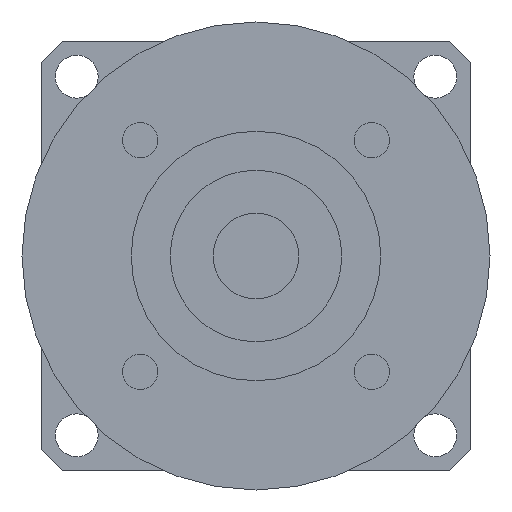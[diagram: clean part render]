
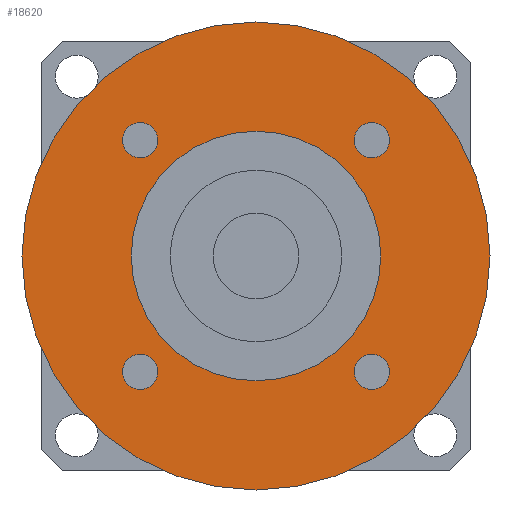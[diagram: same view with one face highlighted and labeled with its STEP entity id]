
A CAD part, left-side view. The second image highlights one B-rep face of the part: STEP entity #18620.
In plain terms, the highlighted planar face has unit normal (-1, 0, 0) as drawn and (0, 0, -1) by its records, which use the part's own axes.
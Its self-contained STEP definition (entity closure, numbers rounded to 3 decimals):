
#11090=CARTESIAN_POINT('',(-12.599,-14.849,-58.));
#11100=VERTEX_POINT('',#11090);
#11280=CARTESIAN_POINT('',(-17.099,-14.849,-58.));
#11290=VERTEX_POINT('',#11280);
#11320=CARTESIAN_POINT('',(-14.849,-14.849,-58.));
#11330=DIRECTION('',(0.,0.,-1.));
#11340=DIRECTION('',(0.,-1.,0.));
#11350=AXIS2_PLACEMENT_3D('',#11320,#11330,#11340);
#11360=CIRCLE('',#11350,2.25);
#11370=CARTESIAN_POINT('',(-14.849,-17.099,-58.));
#11380=VERTEX_POINT('',#11370);
#11390=EDGE_CURVE('',#11380,#11290,#11360,.T.);
#11410=EDGE_CURVE('',#11100,#11380,#11360,.T.);
#12700=CARTESIAN_POINT('',(0.,0.,
-58.));
#12710=DIRECTION('',(0.,0.,1.));
#12720=DIRECTION('',(0.,-1.,0.));
#12730=AXIS2_PLACEMENT_3D('',#12700,#12710,#12720);
#12740=CIRCLE('',#12730,16.);
#12750=CARTESIAN_POINT('',(0.,-16.,-58.));
#12760=VERTEX_POINT('',#12750);
#12770=CARTESIAN_POINT('',(16.,0.,-58.));
#12780=VERTEX_POINT('',#12770);
#12790=EDGE_CURVE('',#12760,#12780,#12740,.T.);
#13020=CARTESIAN_POINT('',(-16.,0.,-58.));
#13030=VERTEX_POINT('',#13020);
#13060=EDGE_CURVE('',#13030,#12760,#12740,.T.);
#17550=CARTESIAN_POINT('',(30.,0.,-58.));
#17560=VERTEX_POINT('',#17550);
#17590=CARTESIAN_POINT('',(0.,0.,
-58.));
#17600=DIRECTION('',(0.,0.,1.));
#17610=DIRECTION('',(0.,-1.,0.));
#17620=AXIS2_PLACEMENT_3D('',#17590,#17600,#17610);
#17630=CIRCLE('',#17620,30.);
#17640=CARTESIAN_POINT('',(0.,-30.,-58.));
#17650=VERTEX_POINT('',#17640);
#17660=EDGE_CURVE('',#17650,#17560,#17630,.T.);
#17680=CARTESIAN_POINT('',(-30.,0.,-58.));
#17690=VERTEX_POINT('',#17680);
#17700=EDGE_CURVE('',#17690,#17650,#17630,.T.);
#17820=CARTESIAN_POINT('',(0.,0.,
-58.));
#17830=DIRECTION('',(0.,0.,1.));
#17840=DIRECTION('',(-1.,0.,0.));
#17850=AXIS2_PLACEMENT_3D('',#17820,#17830,#17840);
#17860=PLANE('',#17850);
#17870=CARTESIAN_POINT('',(14.849,-14.849,-58.));
#17880=DIRECTION('',(0.,0.,-1.));
#17890=DIRECTION('',(1.,0.,0.));
#17900=AXIS2_PLACEMENT_3D('',#17870,#17880,#17890);
#17910=CIRCLE('',#17900,2.25);
#17920=CARTESIAN_POINT('',(17.099,-14.849,-58.));
#17930=VERTEX_POINT('',#17920);
#17940=CARTESIAN_POINT('',(14.849,-17.099,-58.));
#17950=VERTEX_POINT('',#17940);
#17960=EDGE_CURVE('',#17930,#17950,#17910,.T.);
#17970=ORIENTED_EDGE('',*,*,#17960,.F.);
#17980=CARTESIAN_POINT('',(14.849,-12.599,-58.));
#17990=VERTEX_POINT('',#17980);
#18000=EDGE_CURVE('',#17950,#17990,#17910,.T.);
#18010=ORIENTED_EDGE('',*,*,#18000,.F.);
#18020=EDGE_CURVE('',#17990,#17930,#17910,.T.);
#18030=ORIENTED_EDGE('',*,*,#18020,.F.);
#18040=EDGE_LOOP('',(#18030,#18010,#17970));
#18050=FACE_BOUND('',#18040,.T.);
#18060=CARTESIAN_POINT('',(14.849,14.849,-58.));
#18070=DIRECTION('',(0.,0.,-1.));
#18080=DIRECTION('',(0.,1.,0.));
#18090=AXIS2_PLACEMENT_3D('',#18060,#18070,#18080);
#18100=CIRCLE('',#18090,2.25);
#18110=CARTESIAN_POINT('',(14.849,17.099,-58.));
#18120=VERTEX_POINT('',#18110);
#18130=CARTESIAN_POINT('',(17.099,14.849,-58.));
#18140=VERTEX_POINT('',#18130);
#18150=EDGE_CURVE('',#18120,#18140,#18100,.T.);
#18160=ORIENTED_EDGE('',*,*,#18150,.F.);
#18170=CARTESIAN_POINT('',(12.599,14.849,-58.));
#18180=VERTEX_POINT('',#18170);
#18190=EDGE_CURVE('',#18140,#18180,#18100,.T.);
#18200=ORIENTED_EDGE('',*,*,#18190,.F.);
#18210=EDGE_CURVE('',#18180,#18120,#18100,.T.);
#18220=ORIENTED_EDGE('',*,*,#18210,.F.);
#18230=EDGE_LOOP('',(#18220,#18200,#18160));
#18240=FACE_BOUND('',#18230,.T.);
#18250=CARTESIAN_POINT('',(-14.849,14.849,-58.));
#18260=DIRECTION('',(0.,0.,-1.));
#18270=DIRECTION('',(-1.,0.,0.));
#18280=AXIS2_PLACEMENT_3D('',#18250,#18260,#18270);
#18290=CIRCLE('',#18280,2.25);
#18300=CARTESIAN_POINT('',(-17.099,14.849,-58.));
#18310=VERTEX_POINT('',#18300);
#18320=CARTESIAN_POINT('',(-14.849,17.099,-58.));
#18330=VERTEX_POINT('',#18320);
#18340=EDGE_CURVE('',#18310,#18330,#18290,.T.);
#18350=ORIENTED_EDGE('',*,*,#18340,.F.);
#18360=CARTESIAN_POINT('',(-14.849,12.599,-58.));
#18370=VERTEX_POINT('',#18360);
#18380=EDGE_CURVE('',#18330,#18370,#18290,.T.);
#18390=ORIENTED_EDGE('',*,*,#18380,.F.);
#18400=EDGE_CURVE('',#18370,#18310,#18290,.T.);
#18410=ORIENTED_EDGE('',*,*,#18400,.F.);
#18420=EDGE_LOOP('',(#18410,#18390,#18350));
#18430=FACE_BOUND('',#18420,.T.);
#18440=ORIENTED_EDGE('',*,*,#11390,.F.);
#18450=EDGE_CURVE('',#11290,#11100,#11360,.T.);
#18460=ORIENTED_EDGE('',*,*,#18450,.F.);
#18470=ORIENTED_EDGE('',*,*,#11410,.F.);
#18480=EDGE_LOOP('',(#18470,#18460,#18440));
#18490=FACE_BOUND('',#18480,.T.);
#18500=ORIENTED_EDGE('',*,*,#17660,.F.);
#18510=EDGE_CURVE('',#17560,#17690,#17630,.T.);
#18520=ORIENTED_EDGE('',*,*,#18510,.F.);
#18530=ORIENTED_EDGE('',*,*,#17700,.F.);
#18540=EDGE_LOOP('',(#18530,#18520,#18500));
#18550=FACE_OUTER_BOUND('',#18540,.T.);
#18560=EDGE_CURVE('',#12780,#13030,#12740,.T.);
#18570=ORIENTED_EDGE('',*,*,#18560,.T.);
#18580=ORIENTED_EDGE('',*,*,#12790,.T.);
#18590=ORIENTED_EDGE('',*,*,#13060,.T.);
#18600=EDGE_LOOP('',(#18590,#18580,#18570));
#18610=FACE_BOUND('',#18600,.T.);
#18620=ADVANCED_FACE('',(#18050,#18240,#18430,#18490,#18550,#18610),
#17860,.F.);
